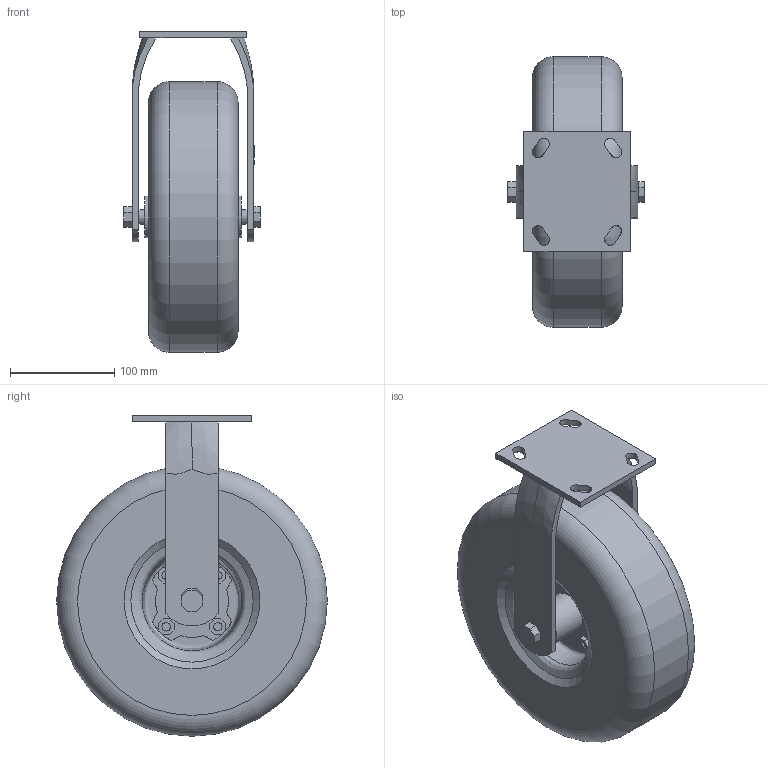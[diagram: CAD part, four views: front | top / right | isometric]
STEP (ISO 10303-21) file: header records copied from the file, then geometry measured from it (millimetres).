
FILE_DESCRIPTION(/* description */ (''),/* implementation_level */ '2;1');
FILE_NAME(/* name */ '65A04_10_F.stp',/* time_stamp */ '2022-08-29T13:07:14+08:00',/* author */ (''),/* organization */ (''),/* preprocessor_version */ 'ST-DEVELOPER v14',/* originating_system */ 'SIEMENS PLM Software NX 8.0',/* authorisation */ '');
FILE_SCHEMA (('AUTOMOTIVE_DESIGN { 1 0 10303 214 3 1 1 1 }'));
Length unit declared in the file: millimetre
Products named in the file (1): 65A04_10_F
Bounding box: 131 x 260 x 308 mm (x, y, z)
Volume: 4152988.1 mm3; surface area: 272562.2 mm2
Topology: 1 solids, 3 shells, 368 faces, 980 edges, 656 vertices
Faces by surface type: plane 288, cylinder 50, bspline 16, extrusion 6, revolution 4, torus 2, cone 2
Full cylindrical faces by diameter (mm): 8.2 x4, 12 x4, 12.5 x2, 14 x4, 33 x2, 40 x2, 40.3 x2, 260 x1
Entity records: 13575 total; most frequent: CARTESIAN_POINT 5077, ORIENTED_EDGE 1868, DIRECTION 1461, EDGE_CURVE 934, VERTEX_POINT 645, VECTOR 515, LINE 509, AXIS2_PLACEMENT_3D 471
